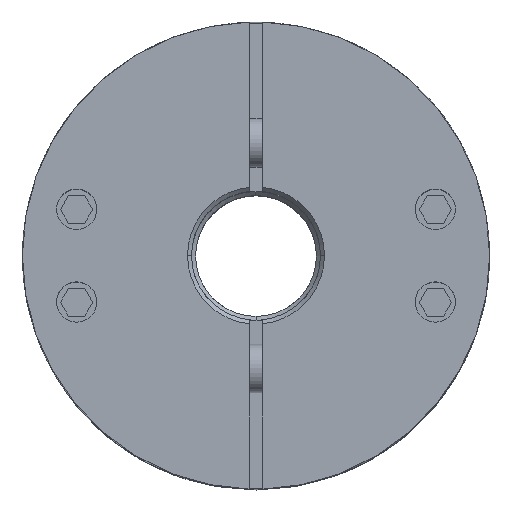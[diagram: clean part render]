
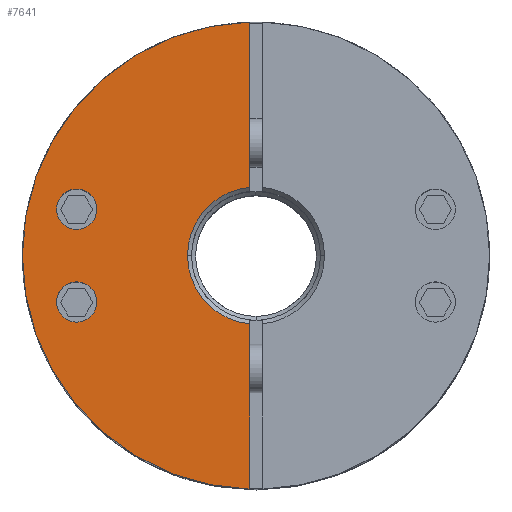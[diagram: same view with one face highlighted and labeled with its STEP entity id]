
A CAD part, top view. The second image highlights one B-rep face of the part: STEP entity #7641.
In plain terms, the highlighted planar face has unit normal (0, 0, 1).
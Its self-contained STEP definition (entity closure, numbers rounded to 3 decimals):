
#4247=CARTESIAN_POINT('',(-19.767,-5.759,27.125));
#4248=VERTEX_POINT('',#4247);
#4257=CARTESIAN_POINT('',(-24.767,-5.759,27.125));
#4258=VERTEX_POINT('',#4257);
#4259=CARTESIAN_POINT('',(-22.267,-5.759,27.125));
#4260=DIRECTION('',(0.0,0.0,-1.0));
#4261=DIRECTION('',(1.0,0.0,0.0));
#4262=AXIS2_PLACEMENT_3D('',#4259,#4260,#4261);
#4263=CIRCLE('',#4262,2.5);
#4264=EDGE_CURVE('',#4258,#4248,#4263,.T.);
#4373=CARTESIAN_POINT('',(-19.767,5.759,27.125));
#4374=VERTEX_POINT('',#4373);
#4383=CARTESIAN_POINT('',(-24.767,5.759,27.125));
#4384=VERTEX_POINT('',#4383);
#4385=CARTESIAN_POINT('',(-22.267,5.759,27.125));
#4386=DIRECTION('',(0.0,0.0,-1.0));
#4387=DIRECTION('',(1.0,0.0,0.0));
#4388=AXIS2_PLACEMENT_3D('',#4385,#4386,#4387);
#4389=CIRCLE('',#4388,2.5);
#4390=EDGE_CURVE('',#4384,#4374,#4389,.T.);
#4602=CARTESIAN_POINT('',(-29.0,0.,27.125));
#4603=VERTEX_POINT('',#4602);
#4610=CARTESIAN_POINT('',(-0.75,28.99,27.125));
#4611=VERTEX_POINT('',#4610);
#4612=CARTESIAN_POINT('',(0.0,0.0,27.125));
#4613=DIRECTION('',(0.0,0.0,-1.0));
#4614=DIRECTION('',(1.0,0.0,0.0));
#4615=AXIS2_PLACEMENT_3D('',#4612,#4613,#4614);
#4616=CIRCLE('',#4615,29.0);
#4617=EDGE_CURVE('',#4603,#4611,#4616,.T.);
#4968=CARTESIAN_POINT('',(-8.5,0.,27.125));
#4969=VERTEX_POINT('',#4968);
#4985=CARTESIAN_POINT('',(-0.75,8.467,27.125));
#4986=VERTEX_POINT('',#4985);
#5000=CARTESIAN_POINT('',(0.0,0.0,27.125));
#5001=DIRECTION('',(0.0,0.0,1.0));
#5002=DIRECTION('',(-1.0,0.0,0.0));
#5003=AXIS2_PLACEMENT_3D('',#5000,#5001,#5002);
#5004=CIRCLE('',#5003,8.5);
#5005=EDGE_CURVE('',#4986,#4969,#5004,.T.);
#7394=CARTESIAN_POINT('',(-0.75,-8.467,27.125));
#7395=VERTEX_POINT('',#7394);
#7396=CARTESIAN_POINT('',(0.0,0.0,27.125));
#7397=DIRECTION('',(0.0,0.0,1.0));
#7398=DIRECTION('',(-1.0,0.0,0.0));
#7399=AXIS2_PLACEMENT_3D('',#7396,#7397,#7398);
#7400=CIRCLE('',#7399,8.5);
#7401=EDGE_CURVE('',#4969,#7395,#7400,.T.);
#7434=CARTESIAN_POINT('',(-0.75,8.467,27.125));
#7435=DIRECTION('',(0.0,1.0,0.0));
#7436=VECTOR('',#7435,20.523);
#7437=LINE('',#7434,#7436);
#7438=EDGE_CURVE('',#4986,#4611,#7437,.T.);
#7548=CARTESIAN_POINT('',(-0.75,-28.99,27.125));
#7549=VERTEX_POINT('',#7548);
#7550=CARTESIAN_POINT('',(-0.75,-28.99,27.125));
#7551=DIRECTION('',(0.0,1.0,0.0));
#7552=VECTOR('',#7551,20.523);
#7553=LINE('',#7550,#7552);
#7554=EDGE_CURVE('',#7549,#7395,#7553,.T.);
#7602=CARTESIAN_POINT('',(2.636,0.,27.125));
#7603=DIRECTION('',(0.0,0.0,1.0));
#7604=DIRECTION('',(1.0,0.0,0.0));
#7605=AXIS2_PLACEMENT_3D('',#7602,#7603,#7604);
#7606=PLANE('',#7605);
#7607=ORIENTED_EDGE('',*,*,#5005,.F.);
#7608=ORIENTED_EDGE('',*,*,#7438,.T.);
#7609=ORIENTED_EDGE('',*,*,#4617,.F.);
#7610=CARTESIAN_POINT('',(0.0,0.0,27.125));
#7611=DIRECTION('',(0.0,0.0,-1.0));
#7612=DIRECTION('',(1.0,0.0,0.0));
#7613=AXIS2_PLACEMENT_3D('',#7610,#7611,#7612);
#7614=CIRCLE('',#7613,29.0);
#7615=EDGE_CURVE('',#7549,#4603,#7614,.T.);
#7616=ORIENTED_EDGE('',*,*,#7615,.F.);
#7617=ORIENTED_EDGE('',*,*,#7554,.T.);
#7618=ORIENTED_EDGE('',*,*,#7401,.F.);
#7619=EDGE_LOOP('',(#7607,#7608,#7609,#7616,#7617,#7618));
#7620=FACE_OUTER_BOUND('',#7619,.T.);
#7621=CARTESIAN_POINT('',(-22.267,-5.759,27.125));
#7622=DIRECTION('',(0.0,0.0,-1.0));
#7623=DIRECTION('',(1.0,0.0,0.0));
#7624=AXIS2_PLACEMENT_3D('',#7621,#7622,#7623);
#7625=CIRCLE('',#7624,2.5);
#7626=EDGE_CURVE('',#4248,#4258,#7625,.T.);
#7627=ORIENTED_EDGE('',*,*,#7626,.T.);
#7628=ORIENTED_EDGE('',*,*,#4264,.T.);
#7629=EDGE_LOOP('',(#7627,#7628));
#7630=FACE_BOUND('',#7629,.T.);
#7631=CARTESIAN_POINT('',(-22.267,5.759,27.125));
#7632=DIRECTION('',(0.0,0.0,-1.0));
#7633=DIRECTION('',(1.0,0.0,0.0));
#7634=AXIS2_PLACEMENT_3D('',#7631,#7632,#7633);
#7635=CIRCLE('',#7634,2.5);
#7636=EDGE_CURVE('',#4374,#4384,#7635,.T.);
#7637=ORIENTED_EDGE('',*,*,#7636,.T.);
#7638=ORIENTED_EDGE('',*,*,#4390,.T.);
#7639=EDGE_LOOP('',(#7637,#7638));
#7640=FACE_BOUND('',#7639,.T.);
#7641=ADVANCED_FACE('',(#7620,#7630,#7640),#7606,.T.);
